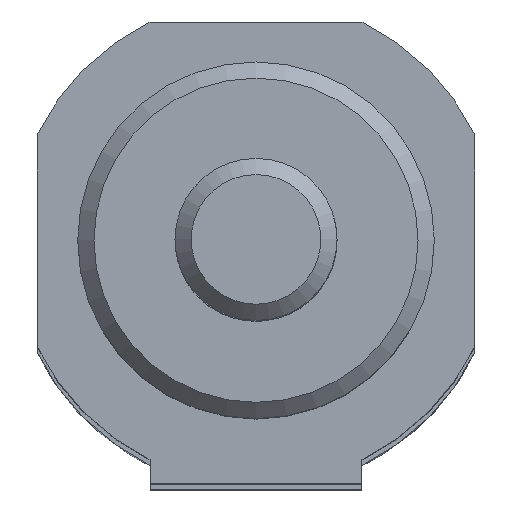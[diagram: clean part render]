
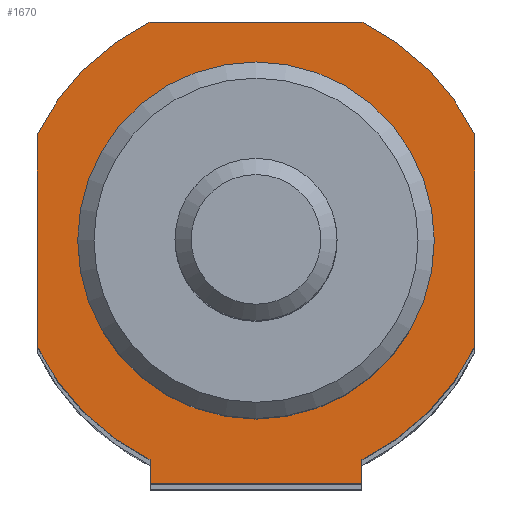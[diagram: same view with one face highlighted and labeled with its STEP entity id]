
A CAD part, top view. The second image highlights one B-rep face of the part: STEP entity #1670.
In plain terms, the highlighted planar face has unit normal (0, 0, 1).
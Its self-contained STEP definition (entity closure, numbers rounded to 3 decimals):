
#101=CARTESIAN_POINT('',(6.538,-15.,236.0));
#102=VERTEX_POINT('',#101);
#103=CARTESIAN_POINT('',(-6.538,-15.,236.0));
#104=VERTEX_POINT('',#103);
#105=CARTESIAN_POINT('',(6.538,-15.,236.0));
#106=DIRECTION('',(-1.0,0.0,0.0));
#107=VECTOR('',#106,13.077);
#108=LINE('',#105,#107);
#109=EDGE_CURVE('',#102,#104,#108,.T.);
#257=CARTESIAN_POINT('',(-6.538,-13.5,236.0));
#258=VERTEX_POINT('',#257);
#272=CARTESIAN_POINT('',(-6.538,-13.5,236.0));
#273=DIRECTION('',(0.0,-1.0,0.0));
#274=VECTOR('',#273,1.5);
#275=LINE('',#272,#274);
#276=EDGE_CURVE('',#258,#104,#275,.T.);
#288=CARTESIAN_POINT('',(6.538,-13.5,236.0));
#289=VERTEX_POINT('',#288);
#296=CARTESIAN_POINT('',(6.538,-13.5,236.0));
#297=DIRECTION('',(0.0,-1.0,0.0));
#298=VECTOR('',#297,1.5);
#299=LINE('',#296,#298);
#300=EDGE_CURVE('',#289,#102,#299,.T.);
#1398=CARTESIAN_POINT('',(11.0,0.,236.0));
#1399=VERTEX_POINT('',#1398);
#1400=CARTESIAN_POINT('',(0.0,0.0,236.0));
#1401=DIRECTION('',(0.0,0.0,-1.0));
#1402=DIRECTION('',(-1.0,0.0,0.0));
#1403=AXIS2_PLACEMENT_3D('',#1400,#1401,#1402);
#1404=CIRCLE('',#1403,11.0);
#1405=EDGE_CURVE('',#1399,#1399,#1404,.T.);
#1490=CARTESIAN_POINT('',(-6.538,13.5,236.0));
#1491=VERTEX_POINT('',#1490);
#1492=CARTESIAN_POINT('',(6.538,13.5,236.0));
#1493=VERTEX_POINT('',#1492);
#1494=CARTESIAN_POINT('',(-6.538,13.5,236.0));
#1495=DIRECTION('',(1.0,0.0,0.0));
#1496=VECTOR('',#1495,13.077);
#1497=LINE('',#1494,#1496);
#1498=EDGE_CURVE('',#1491,#1493,#1497,.T.);
#1521=CARTESIAN_POINT('',(13.5,6.538,236.0));
#1522=VERTEX_POINT('',#1521);
#1523=CARTESIAN_POINT('',(0.,0.,236.0));
#1524=DIRECTION('',(0.,0.,-1.0));
#1525=DIRECTION('',(0.9,0.436,0.));
#1526=AXIS2_PLACEMENT_3D('',#1523,#1524,#1525);
#1527=CIRCLE('',#1526,15.);
#1528=EDGE_CURVE('',#1493,#1522,#1527,.T.);
#1546=CARTESIAN_POINT('',(13.5,-6.538,236.0));
#1547=VERTEX_POINT('',#1546);
#1548=CARTESIAN_POINT('',(13.5,6.538,236.0));
#1549=DIRECTION('',(0.0,-1.0,0.0));
#1550=VECTOR('',#1549,13.077);
#1551=LINE('',#1548,#1550);
#1552=EDGE_CURVE('',#1522,#1547,#1551,.T.);
#1570=CARTESIAN_POINT('',(0.,0.,236.0));
#1571=DIRECTION('',(0.,0.,-1.0));
#1572=DIRECTION('',(0.436,-0.9,0.));
#1573=AXIS2_PLACEMENT_3D('',#1570,#1571,#1572);
#1574=CIRCLE('',#1573,15.);
#1575=EDGE_CURVE('',#1547,#289,#1574,.T.);
#1588=CARTESIAN_POINT('',(-13.5,-6.538,236.0));
#1589=VERTEX_POINT('',#1588);
#1590=CARTESIAN_POINT('',(0.,0.,236.0));
#1591=DIRECTION('',(0.,0.,-1.0));
#1592=DIRECTION('',(-0.9,-0.436,0.));
#1593=AXIS2_PLACEMENT_3D('',#1590,#1591,#1592);
#1594=CIRCLE('',#1593,15.);
#1595=EDGE_CURVE('',#258,#1589,#1594,.T.);
#1613=CARTESIAN_POINT('',(-13.5,6.538,236.0));
#1614=VERTEX_POINT('',#1613);
#1615=CARTESIAN_POINT('',(-13.5,-6.538,236.0));
#1616=DIRECTION('',(0.0,1.0,0.0));
#1617=VECTOR('',#1616,13.077);
#1618=LINE('',#1615,#1617);
#1619=EDGE_CURVE('',#1589,#1614,#1618,.T.);
#1637=CARTESIAN_POINT('',(0.,0.,236.0));
#1638=DIRECTION('',(0.,0.,-1.0));
#1639=DIRECTION('',(-0.436,0.9,0.));
#1640=AXIS2_PLACEMENT_3D('',#1637,#1638,#1639);
#1641=CIRCLE('',#1640,15.);
#1642=EDGE_CURVE('',#1614,#1491,#1641,.T.);
#1650=CARTESIAN_POINT('',(0.,0.0,236.0));
#1651=DIRECTION('',(0.0,0.0,1.0));
#1652=DIRECTION('',(1.0,0.0,0.0));
#1653=AXIS2_PLACEMENT_3D('',#1650,#1651,#1652);
#1654=PLANE('',#1653);
#1655=ORIENTED_EDGE('',*,*,#1498,.F.);
#1656=ORIENTED_EDGE('',*,*,#1642,.F.);
#1657=ORIENTED_EDGE('',*,*,#1619,.F.);
#1658=ORIENTED_EDGE('',*,*,#1595,.F.);
#1659=ORIENTED_EDGE('',*,*,#276,.T.);
#1660=ORIENTED_EDGE('',*,*,#109,.F.);
#1661=ORIENTED_EDGE('',*,*,#300,.F.);
#1662=ORIENTED_EDGE('',*,*,#1575,.F.);
#1663=ORIENTED_EDGE('',*,*,#1552,.F.);
#1664=ORIENTED_EDGE('',*,*,#1528,.F.);
#1665=EDGE_LOOP('',(#1655,#1656,#1657,#1658,#1659,#1660,#1661,#1662,#1663,#1664));
#1666=FACE_OUTER_BOUND('',#1665,.T.);
#1667=ORIENTED_EDGE('',*,*,#1405,.T.);
#1668=EDGE_LOOP('',(#1667));
#1669=FACE_BOUND('',#1668,.T.);
#1670=ADVANCED_FACE('',(#1666,#1669),#1654,.T.);
